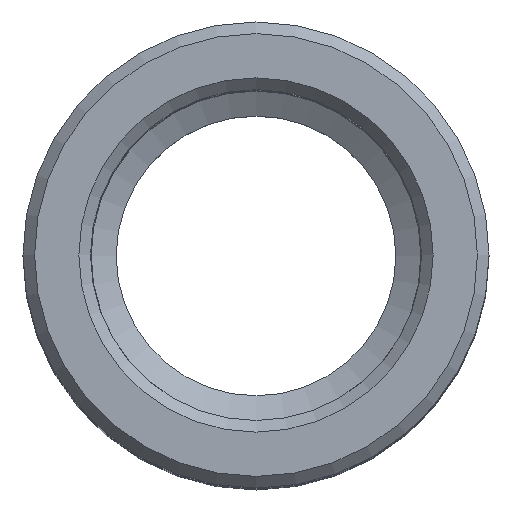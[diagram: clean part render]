
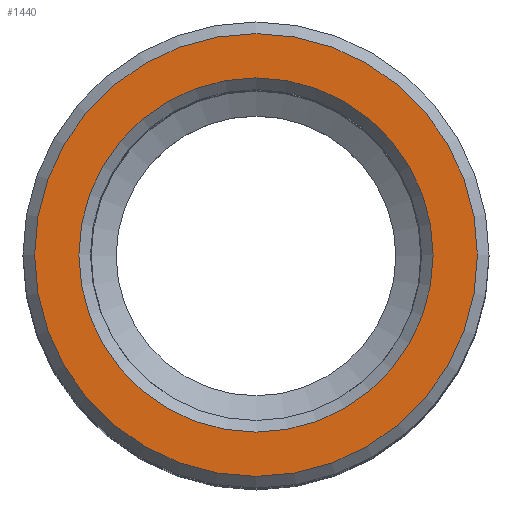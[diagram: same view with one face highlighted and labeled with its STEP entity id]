
A CAD part, top view. The second image highlights one B-rep face of the part: STEP entity #1440.
In plain terms, the highlighted planar face has unit normal (0, 0, 1) as drawn and (0, 1, 0) by its records, which use the part's own axes.
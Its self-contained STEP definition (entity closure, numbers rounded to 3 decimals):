
#517=PLANE('',#1357);
#600=ORIENTED_EDGE('',*,*,#755,.T.);
#601=ORIENTED_EDGE('',*,*,#754,.F.);
#662=CIRCLE('',#1356,7.6);
#663=CIRCLE('',#1358,9.5);
#708=VERTEX_POINT('',#1242);
#709=VERTEX_POINT('',#1245);
#754=EDGE_CURVE('',#708,#708,#662,.T.);
#755=EDGE_CURVE('',#709,#709,#663,.T.);
#830=EDGE_LOOP('',(#600));
#831=EDGE_LOOP('',(#601));
#922=FACE_BOUND('',#830,.T.);
#923=FACE_BOUND('',#831,.T.);
#1078=DIRECTION('',(0.,1.,0.));
#1079=DIRECTION('',(0.,0.,7.6));
#1080=DIRECTION('',(0.,1.,0.));
#1081=DIRECTION('',(1.,0.,0.));
#1082=DIRECTION('',(0.,1.,0.));
#1083=DIRECTION('',(0.,0.,9.5));
#1242=CARTESIAN_POINT('',(140.213,64.383,0.));
#1243=CARTESIAN_POINT('',(132.613,64.383,0.));
#1244=CARTESIAN_POINT('',(132.613,64.383,0.));
#1245=CARTESIAN_POINT('',(142.113,64.383,0.));
#1246=CARTESIAN_POINT('',(132.613,64.383,0.));
#1356=AXIS2_PLACEMENT_3D('',#1243,#1078,#1079);
#1357=AXIS2_PLACEMENT_3D('',#1244,#1080,#1081);
#1358=AXIS2_PLACEMENT_3D('',#1246,#1082,#1083);
#1440=ADVANCED_FACE('',(#922,#923),#517,.T.);
